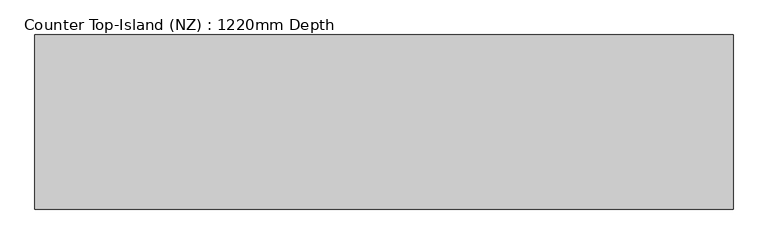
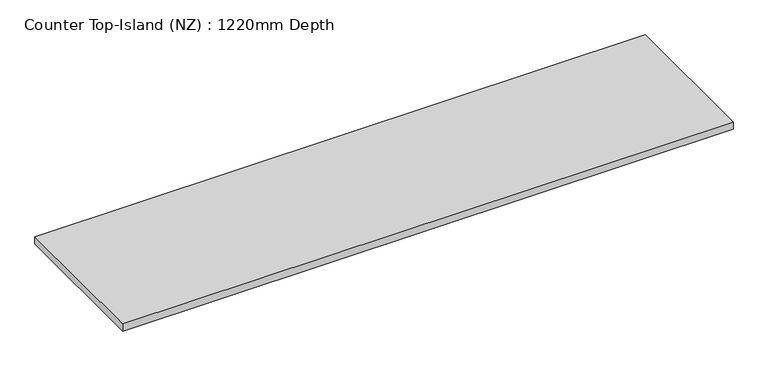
"""IFC4 building model written with IfcOpenShell, lengths in millimetres: furniture geometry, Counter Top-Island (NZ) : 1220mm Depth."""

from ifc_helpers import new_model, si_unit, frame, origin, place, context, project, spatial, polyline, outline, extrude, source, transform, mapped, element, save


def counter_top_island_nz_1220mm_depth_33d09e76(model_context):
    return source(origin(), model_context, "Body", "SweptSolid", [
        extrude(outline(polyline([(2007.4033345, 25.4), (2007.4033345, -774.6), (-1200.4622951, -774.6), (-1200.4622951, 25.4), (2007.4033345, 25.4)])), frame((0.0, 0.0, 860.0), z_axis=(0.0, 0.0, 1.0), x_axis=(1.0, 0.0, 0.0)), (0.0, 0.0, 1.0), 40.0),
    ])


if __name__ == "__main__":
    model = new_model("IFC4")
    model_context = context("Model", 3, world=origin())
    ifc_project = project(units=[si_unit("LENGTHUNIT", "METRE", prefix="MILLI")], contexts=[model_context])
    site = spatial("IfcSite", under=ifc_project)
    building = spatial("IfcBuilding", under=site)
    placement = place(None, origin())
    counter_top_island_nz_1220mm_depth_shape = counter_top_island_nz_1220mm_depth_33d09e76(model_context)
    element("IfcFurniture", 1, ObjectType="Counter Top-Island (NZ) : 1220mm Depth", at=placement, inside=building, context=model_context, shape_type="MappedRepresentation", body=[
        mapped(counter_top_island_nz_1220mm_depth_shape, transform((0.0, 0.0, 0.0), x_axis=(1.0, 0.0, 0.0), y_axis=(0.0, 1.0, 0.0), z_axis=(0.0, 0.0, 1.0))),
    ])
    save(model, "model.ifc")
